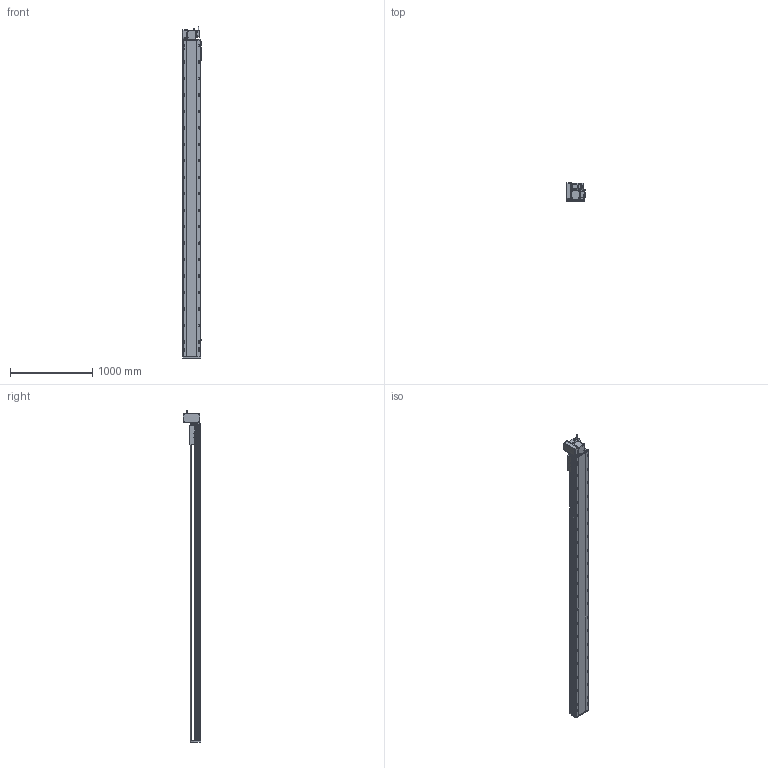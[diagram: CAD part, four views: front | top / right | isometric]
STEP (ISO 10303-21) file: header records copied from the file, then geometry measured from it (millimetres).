
FILE_DESCRIPTION (( 'STEP AP214' ), '1' );
FILE_NAME ('RTB22S-XX-3500-LW-M75-C4.STEP', '2025-12-12T07:08:22', ( '' ), ( '' ), 'SwSTEP 2.0', 'SolidWorks 2018', '' );
FILE_SCHEMA (( 'AUTOMOTIVE_DESIGN' ));
Length unit declared in the file: millimetre
Products named in the file (14): 750W萇儂^RTB22S-XX-XX-LW-M75-C4; RTB22S-GY-017P^RTB22S-LW-々湍釱蚾饜_RTB22S-XX-XX-LW-M75-C4; RTB22S-GY-014--々湍釱^RTB22S-LW-々湍釱蚾饜_RTB22S-XX-XX-LW-M75-C4; RTB22S-GY-008-M75--萇儂啣^RTB22S-LW-々湍釱蚾饜_RTB22S-XX-XX-LW-M75-C4; RTB22S-GY-001耜裔^RTB22S-XX-XX-LW-M75-C4; RTB22S-GY-007奻裔^RTB22S-XX-XX-LW-M75-C4; RTB22S-LW-々湍釱蚾饜^RTB22S-XX-XX-LW-M75-C4; RTB22S-GY-005P^RTB22S-LW-々湍釱蚾饜_RTB22S-XX-XX-LW-M75-C4; RTB22S-XX-3500-LW-M75-C4; OMRON EE-SX672 传感器^RTB22S-XX-XX-LW-M75-C4; RTB22S-L-011菁釱^RTB22S-XX-XX-LW-M75-C4; RTH22-GY-013外置感应片^RTB22S-XX-XX-LW-M75-C4; RTB22S-GY-018P^RTB22S-LW-々湍釱蚾饜_RTB22S-XX-XX-LW-M75-C4; RTB22S-L-004賑釱^RTB22S-XX-XX-LW-M75-C4
Assembly tree (16 placements, depth 3):
  RTB22S-XX-3500-LW-M75-C4
    RTB22S-L-011菁釱^RTB22S-XX-XX-LW-M75-C4
    RTB22S-GY-001耜裔^RTB22S-XX-XX-LW-M75-C4
    750W萇儂^RTB22S-XX-XX-LW-M75-C4
    RTB22S-GY-007奻裔^RTB22S-XX-XX-LW-M75-C4
    RTB22S-L-004賑釱^RTB22S-XX-XX-LW-M75-C4
    RTH22-GY-013外置感应片^RTB22S-XX-XX-LW-M75-C4
    OMRON EE-SX672 传感器^RTB22S-XX-XX-LW-M75-C4  x3
    RTB22S-LW-々湍釱蚾饜^RTB22S-XX-XX-LW-M75-C4
      RTB22S-GY-014--々湍釱^RTB22S-LW-々湍釱蚾饜_RTB22S-XX-XX-LW-M75-C4
      RTB22S-GY-017P^RTB22S-LW-々湍釱蚾饜_RTB22S-XX-XX-LW-M75-C4  x2
      RTB22S-GY-005P^RTB22S-LW-々湍釱蚾饜_RTB22S-XX-XX-LW-M75-C4
      RTB22S-GY-008-M75--萇儂啣^RTB22S-LW-々湍釱蚾饜_RTB22S-XX-XX-LW-M75-C4
      RTB22S-GY-018P^RTB22S-LW-々湍釱蚾饜_RTB22S-XX-XX-LW-M75-C4
Bounding box: 238.5 x 215.5 x 4032.2 mm (x, y, z)
Volume: 50412493.5 mm3; surface area: 5129335.1 mm2
Topology: 15 solids, 15 shells, 2199 faces, 5986 edges, 3812 vertices
Faces by surface type: plane 939, cylinder 766, bspline 296, cone 186, sphere 8, torus 4
Entity records: 60664 total; most frequent: CARTESIAN_POINT 16948, ORIENTED_EDGE 8664, DIRECTION 8546, EDGE_CURVE 4332, AXIS2_PLACEMENT_3D 3094, VERTEX_POINT 2816, LINE 2358, VECTOR 2358
